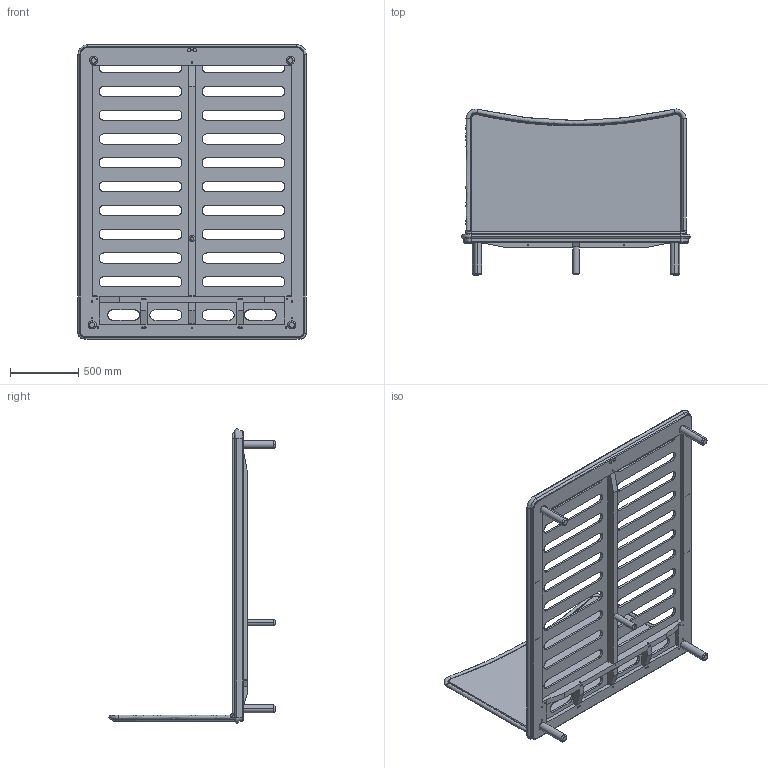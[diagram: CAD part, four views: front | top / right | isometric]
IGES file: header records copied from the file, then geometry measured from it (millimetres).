
Start section: SolidWorks IGES file using analytic representation for surfaces
Global section: file name: C:\Users\David.BDLE\Desktop\NOVOS 3D cad files\Carlton\061UQ_Carlton Bed_ve\061UQ_Carlton Bed_3D IGS.IGS; native system: SolidWorks 2016; preprocessor: SolidWorks 2016; author: David; date: 201211.131216; units: millimetre
Bounding box: 1670 x 1214.92 x 2155 mm (x, y, z)
Surface area: 10914342.8 mm2 (no closed solid volume)
Topology: 0 solids, 0 shells, 954 faces, 15844 edges, 15777 vertices
Faces by surface type: revolution 631, bspline 323
